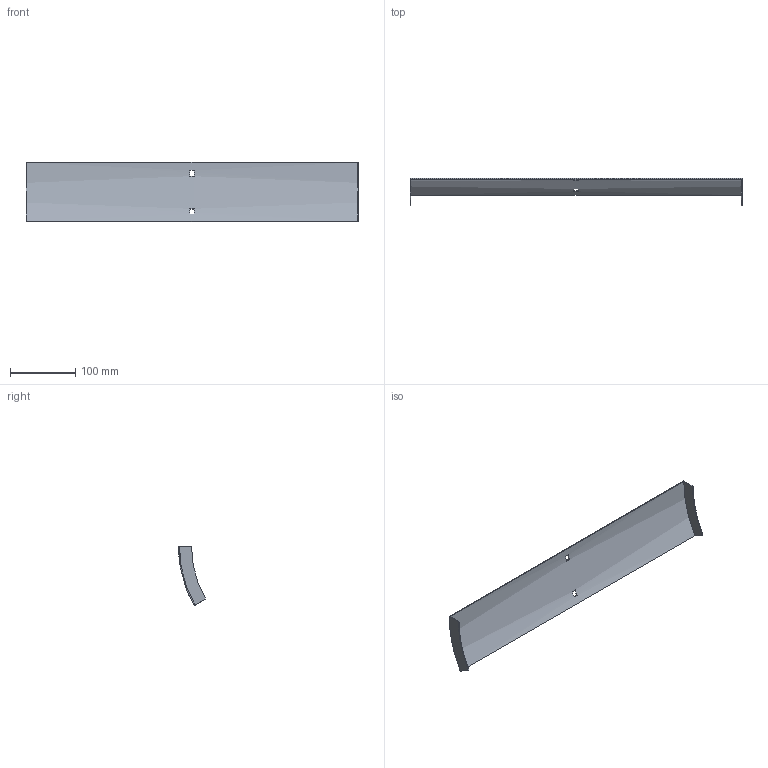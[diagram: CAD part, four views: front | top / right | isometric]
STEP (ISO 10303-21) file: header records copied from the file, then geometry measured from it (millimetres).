
FILE_DESCRIPTION (( 'STEP AP214' ), '1' );
FILE_NAME ('35N1C500.step', '2025-02-21T09:13:11', ( '' ), ( '' ), 'SwSTEP 2.0', 'SolidWorks 2023', '' );
FILE_SCHEMA (( 'AUTOMOTIVE_DESIGN' ));
Length unit declared in the file: millimetre
Products named in the file (1): 35N1C500
Bounding box: 507 x 41.5 x 90.25 mm (x, y, z)
Volume: 76332.5 mm3; surface area: 103755.4 mm2
Topology: 1 solids, 1 shells, 18 faces, 48 edges, 32 vertices
Faces by surface type: plane 14, cylinder 4
Entity records: 599 total; most frequent: DIRECTION 102, CARTESIAN_POINT 99, ORIENTED_EDGE 96, EDGE_CURVE 48, AXIS2_PLACEMENT_3D 35, VECTOR 32, LINE 32, VERTEX_POINT 32
